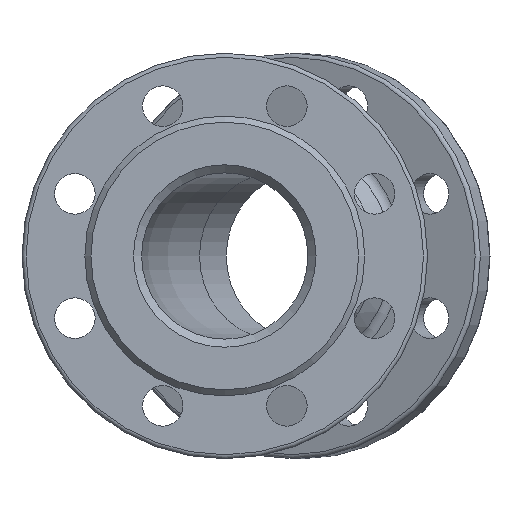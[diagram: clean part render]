
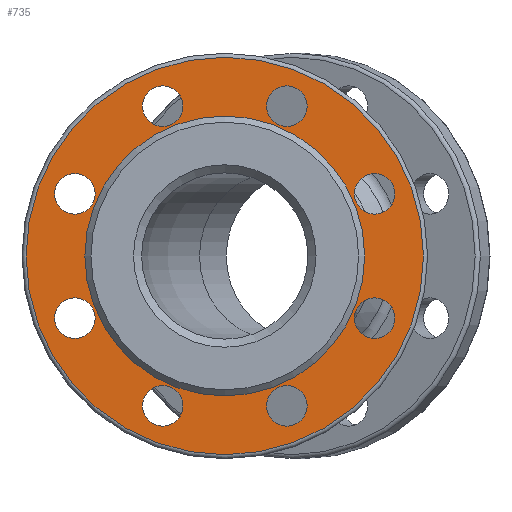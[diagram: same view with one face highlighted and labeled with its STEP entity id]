
A CAD part, left-side view. The second image highlights one B-rep face of the part: STEP entity #735.
In plain terms, the highlighted planar face has unit normal (-1, 0, 0).
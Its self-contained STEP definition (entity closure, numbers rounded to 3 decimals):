
#5 = DIRECTION ( 'NONE',  ( -1., 0., 0. ) ) ;
#9 = CIRCLE ( 'NONE', #389, 10. ) ;
#27 = DIRECTION ( 'NONE',  ( 0., 0., -1. ) ) ;
#30 = VERTEX_POINT ( 'NONE', #2705 ) ;
#45 = DIRECTION ( 'NONE',  ( 0., 0., -1. ) ) ;
#59 = CARTESIAN_POINT ( 'NONE',  ( 3., -30.615, 73.91 ) ) ;
#93 = VERTEX_POINT ( 'NONE', #2156 ) ;
#119 = AXIS2_PLACEMENT_3D ( 'NONE', #1308, #1246, #1286 ) ;
#131 = ORIENTED_EDGE ( 'NONE', *, *, #159, .F. ) ;
#149 = EDGE_LOOP ( 'NONE', ( #3344 ) ) ;
#159 = EDGE_CURVE ( 'NONE', #1733, #1733, #1389, .T. ) ;
#181 = FACE_BOUND ( 'NONE', #2255, .T. ) ;
#265 = ORIENTED_EDGE ( 'NONE', *, *, #3390, .F. ) ;
#340 = DIRECTION ( 'NONE',  ( -1., 0., 0. ) ) ;
#389 = AXIS2_PLACEMENT_3D ( 'NONE', #2304, #3798, #1395 ) ;
#473 = EDGE_CURVE ( 'NONE', #2643, #2643, #1631, .T. ) ;
#476 = PLANE ( 'NONE',  #1506 ) ;
#489 = AXIS2_PLACEMENT_3D ( 'NONE', #3382, #679, #3095 ) ;
#525 = EDGE_LOOP ( 'NONE', ( #3209 ) ) ;
#544 = CARTESIAN_POINT ( 'NONE',  ( 3., -30.615, 63.91 ) ) ;
#563 = EDGE_CURVE ( 'NONE', #2684, #2684, #1328, .T. ) ;
#679 = DIRECTION ( 'NONE',  ( -1., 0., 0. ) ) ;
#694 = FACE_BOUND ( 'NONE', #525, .T. ) ;
#723 = VERTEX_POINT ( 'NONE', #1861 ) ;
#735 = ADVANCED_FACE ( 'NONE', ( #2542, #3417, #3743, #694, #1042, #1324, #3470, #2209, #3452, #181 ), #476, .F. ) ;
#769 = CARTESIAN_POINT ( 'NONE',  ( 3., 69., 0. ) ) ;
#853 = EDGE_CURVE ( 'NONE', #2994, #2994, #9, .T. ) ;
#1006 = DIRECTION ( 'NONE',  ( 1., 0., 0. ) ) ;
#1011 = AXIS2_PLACEMENT_3D ( 'NONE', #2405, #5, #3603 ) ;
#1042 = FACE_BOUND ( 'NONE', #3081, .T. ) ;
#1091 = EDGE_LOOP ( 'NONE', ( #1167 ) ) ;
#1167 = ORIENTED_EDGE ( 'NONE', *, *, #3341, .F. ) ;
#1194 = ORIENTED_EDGE ( 'NONE', *, *, #2829, .F. ) ;
#1231 = DIRECTION ( 'NONE',  ( 0., 0., -1. ) ) ;
#1235 = EDGE_CURVE ( 'NONE', #30, #30, #1698, .T. ) ;
#1246 = DIRECTION ( 'NONE',  ( -1., 0., 0. ) ) ;
#1269 = VERTEX_POINT ( 'NONE', #1600 ) ;
#1286 = DIRECTION ( 'NONE',  ( 0., 0., -1. ) ) ;
#1308 = CARTESIAN_POINT ( 'NONE',  ( 3., -73.91, 30.615 ) ) ;
#1324 = FACE_BOUND ( 'NONE', #2470, .T. ) ;
#1328 = CIRCLE ( 'NONE', #2969, 10. ) ;
#1389 = CIRCLE ( 'NONE', #2837, 10. ) ;
#1395 = DIRECTION ( 'NONE',  ( 0., 0., -1. ) ) ;
#1438 = CARTESIAN_POINT ( 'NONE',  ( 3., 0., -98. ) ) ;
#1465 = EDGE_LOOP ( 'NONE', ( #2546 ) ) ;
#1466 = DIRECTION ( 'NONE',  ( -1., 0., 0. ) ) ;
#1506 = AXIS2_PLACEMENT_3D ( 'NONE', #769, #1006, #1950 ) ;
#1542 = CARTESIAN_POINT ( 'NONE',  ( 3., 30.615, 73.91 ) ) ;
#1593 = CARTESIAN_POINT ( 'NONE',  ( 3., 30.615, -73.91 ) ) ;
#1600 = CARTESIAN_POINT ( 'NONE',  ( 3., -73.91, 20.615 ) ) ;
#1631 = CIRCLE ( 'NONE', #1011, 98. ) ;
#1698 = CIRCLE ( 'NONE', #2213, 10. ) ;
#1733 = VERTEX_POINT ( 'NONE', #3326 ) ;
#1805 = CIRCLE ( 'NONE', #119, 10. ) ;
#1861 = CARTESIAN_POINT ( 'NONE',  ( 3., -73.91, -40.615 ) ) ;
#1896 = CARTESIAN_POINT ( 'NONE',  ( 3., -30.615, -73.91 ) ) ;
#1950 = DIRECTION ( 'NONE',  ( 0., 0., -1. ) ) ;
#2004 = AXIS2_PLACEMENT_3D ( 'NONE', #1896, #3051, #45 ) ;
#2156 = CARTESIAN_POINT ( 'NONE',  ( 3., -30.615, -83.91 ) ) ;
#2209 = FACE_BOUND ( 'NONE', #1465, .T. ) ;
#2213 = AXIS2_PLACEMENT_3D ( 'NONE', #1542, #2981, #1231 ) ;
#2244 = DIRECTION ( 'NONE',  ( -1., 0., 0. ) ) ;
#2255 = EDGE_LOOP ( 'NONE', ( #2663 ) ) ;
#2266 = DIRECTION ( 'NONE',  ( 0., 0., 1. ) ) ;
#2304 = CARTESIAN_POINT ( 'NONE',  ( 3., 73.91, 30.615 ) ) ;
#2321 = AXIS2_PLACEMENT_3D ( 'NONE', #3707, #2244, #2266 ) ;
#2347 = ORIENTED_EDGE ( 'NONE', *, *, #473, .T. ) ;
#2405 = CARTESIAN_POINT ( 'NONE',  ( 3., 0., 0. ) ) ;
#2470 = EDGE_LOOP ( 'NONE', ( #265 ) ) ;
#2542 = FACE_OUTER_BOUND ( 'NONE', #3073, .T. ) ;
#2546 = ORIENTED_EDGE ( 'NONE', *, *, #2929, .F. ) ;
#2618 = CIRCLE ( 'NONE', #489, 10. ) ;
#2643 = VERTEX_POINT ( 'NONE', #1438 ) ;
#2659 = EDGE_CURVE ( 'NONE', #3118, #3118, #3705, .T. ) ;
#2662 = ORIENTED_EDGE ( 'NONE', *, *, #2659, .F. ) ;
#2663 = ORIENTED_EDGE ( 'NONE', *, *, #563, .F. ) ;
#2684 = VERTEX_POINT ( 'NONE', #544 ) ;
#2693 = DIRECTION ( 'NONE',  ( 0., 0., -1. ) ) ;
#2705 = CARTESIAN_POINT ( 'NONE',  ( 3., 30.615, 63.91 ) ) ;
#2742 = CARTESIAN_POINT ( 'NONE',  ( 3., 73.91, -30.615 ) ) ;
#2829 = EDGE_CURVE ( 'NONE', #1269, #1269, #1805, .T. ) ;
#2837 = AXIS2_PLACEMENT_3D ( 'NONE', #2742, #3094, #27 ) ;
#2929 = EDGE_CURVE ( 'NONE', #723, #723, #2618, .T. ) ;
#2969 = AXIS2_PLACEMENT_3D ( 'NONE', #59, #1466, #2693 ) ;
#2981 = DIRECTION ( 'NONE',  ( -1., 0., 0. ) ) ;
#2994 = VERTEX_POINT ( 'NONE', #3848 ) ;
#3051 = DIRECTION ( 'NONE',  ( -1., 0., 0. ) ) ;
#3073 = EDGE_LOOP ( 'NONE', ( #2347 ) ) ;
#3081 = EDGE_LOOP ( 'NONE', ( #131 ) ) ;
#3094 = DIRECTION ( 'NONE',  ( -1., 0., 0. ) ) ;
#3095 = DIRECTION ( 'NONE',  ( 0., 0., -1. ) ) ;
#3118 = VERTEX_POINT ( 'NONE', #3136 ) ;
#3136 = CARTESIAN_POINT ( 'NONE',  ( 3., 0., 69. ) ) ;
#3209 = ORIENTED_EDGE ( 'NONE', *, *, #853, .F. ) ;
#3211 = CIRCLE ( 'NONE', #2004, 10. ) ;
#3301 = EDGE_LOOP ( 'NONE', ( #2662 ) ) ;
#3326 = CARTESIAN_POINT ( 'NONE',  ( 3., 73.91, -40.615 ) ) ;
#3341 = EDGE_CURVE ( 'NONE', #93, #93, #3211, .T. ) ;
#3344 = ORIENTED_EDGE ( 'NONE', *, *, #1235, .F. ) ;
#3345 = CARTESIAN_POINT ( 'NONE',  ( 3., 30.615, -83.91 ) ) ;
#3382 = CARTESIAN_POINT ( 'NONE',  ( 3., -73.91, -30.615 ) ) ;
#3390 = EDGE_CURVE ( 'NONE', #3424, #3424, #3511, .T. ) ;
#3417 = FACE_BOUND ( 'NONE', #3301, .T. ) ;
#3424 = VERTEX_POINT ( 'NONE', #3345 ) ;
#3452 = FACE_BOUND ( 'NONE', #3868, .T. ) ;
#3470 = FACE_BOUND ( 'NONE', #1091, .T. ) ;
#3511 = CIRCLE ( 'NONE', #3568, 10. ) ;
#3568 = AXIS2_PLACEMENT_3D ( 'NONE', #1593, #340, #3669 ) ;
#3603 = DIRECTION ( 'NONE',  ( 0., 0., -1. ) ) ;
#3669 = DIRECTION ( 'NONE',  ( 0., 0., -1. ) ) ;
#3705 = CIRCLE ( 'NONE', #2321, 69. ) ;
#3707 = CARTESIAN_POINT ( 'NONE',  ( 3., 0., 0. ) ) ;
#3743 = FACE_BOUND ( 'NONE', #149, .T. ) ;
#3798 = DIRECTION ( 'NONE',  ( -1., 0., 0. ) ) ;
#3848 = CARTESIAN_POINT ( 'NONE',  ( 3., 73.91, 20.615 ) ) ;
#3868 = EDGE_LOOP ( 'NONE', ( #1194 ) ) ;
